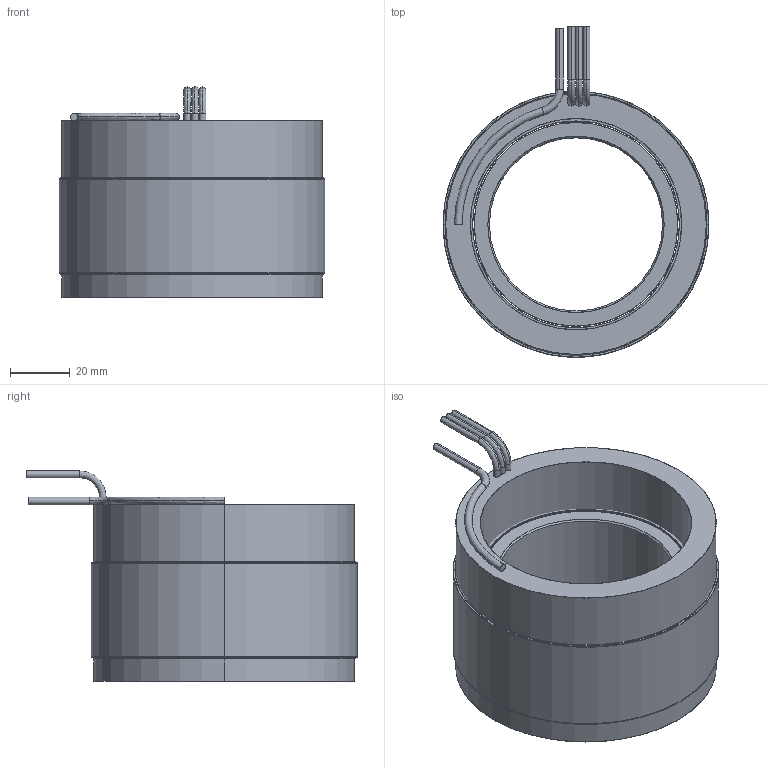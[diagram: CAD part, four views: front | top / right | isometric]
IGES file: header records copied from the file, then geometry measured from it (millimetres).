
Start section: SolidWorks IGES file using analytic representation for surfaces
Global section: file name: \\fs01.aveox.local\user documents\eng\My Documents\6100394-XX STATOR AND ROTOR SET, UT-3500-24P3, SENSORLESS\6100394-03.IGS; native system: SolidWorks 2016; preprocessor: SolidWorks 2016; author: eng; date: 201214.193512; units: inch
Bounding box: 88.9 x 110.49 x 70.23 mm (x, y, z)
Surface area: 89000.8 mm2 (no closed solid volume)
Topology: 0 solids, 0 shells, 75 faces, 2288 edges, 2288 vertices
Faces by surface type: revolution 46, bspline 29
